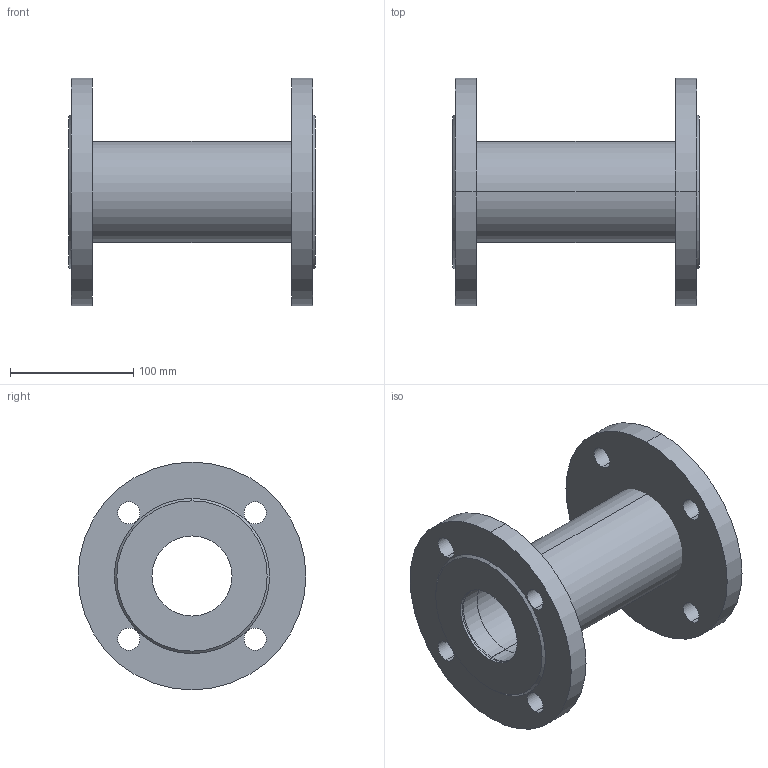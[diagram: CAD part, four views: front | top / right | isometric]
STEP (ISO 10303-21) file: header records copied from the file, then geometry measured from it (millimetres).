
FILE_DESCRIPTION(('STEP AP214'),'1');
FILE_NAME('U:/VDI-Daten/8500/8500_PN16_L200_DN65.STP','2012-06-12T14:07:43',(' '),(' '),'Spatial InterOp 3D',' ',' ');
FILE_SCHEMA(('automotive_design'));
Length unit declared in the file: millimetre
Products named in the file (5): 3D-Objekt
Bounding box: 200 x 185 x 185 mm (x, y, z)
Volume: 1181318.8 mm3; surface area: 255921.8 mm2
Topology: 5 solids, 5 shells, 46 faces, 108 edges, 72 vertices
Faces by surface type: cylinder 32, plane 10, cone 4
Entity records: 1901 total; most frequent: DIRECTION 282, CARTESIAN_POINT 231, ORIENTED_EDGE 216, AXIS2_PLACEMENT_3D 123, EDGE_CURVE 108, EDGE_LOOP 72, VERTEX_POINT 72, CIRCLE 72
